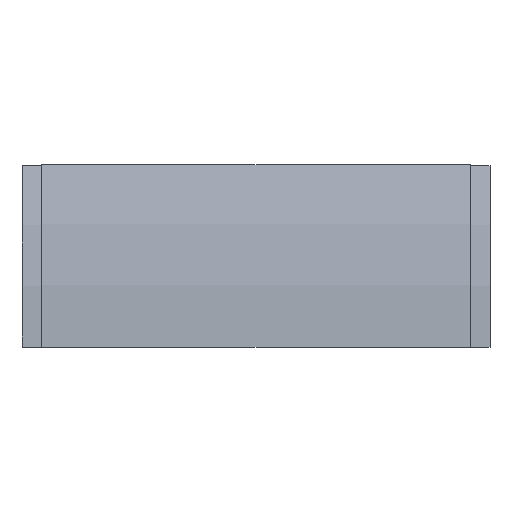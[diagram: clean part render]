
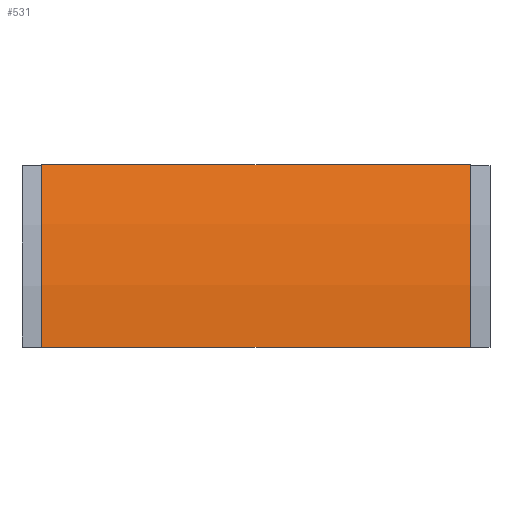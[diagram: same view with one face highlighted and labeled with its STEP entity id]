
A CAD part, front view. The second image highlights one B-rep face of the part: STEP entity #531.
In plain terms, the highlighted cylindrical face has radius 568 mm (diameter 1136 mm), a partial arc.
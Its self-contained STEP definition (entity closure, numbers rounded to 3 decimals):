
#178 = EDGE_CURVE ( 'NONE', #657, #666, #596, .T. ) ;
#181 = EDGE_CURVE ( 'NONE', #656, #664, #591, .T. ) ;
#182 = EDGE_CURVE ( 'NONE', #657, #656, #594, .T. ) ;
#183 = EDGE_CURVE ( 'NONE', #666, #664, #588, .T. ) ;
#266 = CARTESIAN_POINT ( 'NONE',  ( -228.5, -68., 0. ) ) ;
#268 = CARTESIAN_POINT ( 'NONE',  ( 228.5, -68., 0. ) ) ;
#277 = CARTESIAN_POINT ( 'NONE',  ( -228.5, -33.745, 194.267 ) ) ;
#278 = CARTESIAN_POINT ( 'NONE',  ( 228.5, -33.745, 194.267 ) ) ;
#383 = CARTESIAN_POINT ( 'NONE',  ( -228.5, 500., 0. ) ) ;
#386 = DIRECTION ( 'NONE',  ( 1., 0., 0. ) ) ;
#412 = CARTESIAN_POINT ( 'NONE',  ( 0., 500., 0. ) ) ;
#416 = DIRECTION ( 'NONE',  ( 0., 0., -1. ) ) ;
#419 = DIRECTION ( 'NONE',  ( 1., 0., 0. ) ) ;
#447 = DIRECTION ( 'NONE',  ( 1., 0., 0. ) ) ;
#455 = CARTESIAN_POINT ( 'NONE',  ( -228.5, -33.745, 194.267 ) ) ;
#478 = DIRECTION ( 'NONE',  ( 0., 0., -1. ) ) ;
#480 = DIRECTION ( 'NONE',  ( 1., 0., 0. ) ) ;
#493 = DIRECTION ( 'NONE',  ( 0., 0., -1. ) ) ;
#494 = DIRECTION ( 'NONE',  ( 1., 0., 0. ) ) ;
#495 = CARTESIAN_POINT ( 'NONE',  ( -228.5, -68., 0. ) ) ;
#516 = CARTESIAN_POINT ( 'NONE',  ( 228.5, 500., 0. ) ) ;
#531 = ADVANCED_FACE ( 'NONE', ( #897 ), #1018, .T. ) ;
#585 = VECTOR ( 'NONE', #494, 1000. ) ;
#587 = VECTOR ( 'NONE', #386, 1000. ) ;
#588 = LINE ( 'NONE', #495, #585 ) ;
#591 = CIRCLE ( 'NONE', #952, 568. ) ;
#594 = LINE ( 'NONE', #455, #587 ) ;
#596 = CIRCLE ( 'NONE', #951, 568. ) ;
#656 = VERTEX_POINT ( 'NONE', #278 ) ;
#657 = VERTEX_POINT ( 'NONE', #277 ) ;
#664 = VERTEX_POINT ( 'NONE', #268 ) ;
#666 = VERTEX_POINT ( 'NONE', #266 ) ;
#785 = ORIENTED_EDGE ( 'NONE', *, *, #178, .T. ) ;
#786 = ORIENTED_EDGE ( 'NONE', *, *, #183, .T. ) ;
#787 = ORIENTED_EDGE ( 'NONE', *, *, #181, .F. ) ;
#788 = ORIENTED_EDGE ( 'NONE', *, *, #182, .F. ) ;
#869 = EDGE_LOOP ( 'NONE', ( #787, #788, #785, #786 ) ) ;
#897 = FACE_OUTER_BOUND ( 'NONE', #869, .T. ) ;
#951 = AXIS2_PLACEMENT_3D ( 'NONE', #383, #480, #478 ) ;
#952 = AXIS2_PLACEMENT_3D ( 'NONE', #516, #447, #493 ) ;
#972 = AXIS2_PLACEMENT_3D ( 'NONE', #412, #419, #416 ) ;
#1018 = CYLINDRICAL_SURFACE ( 'NONE', #972, 568. ) ;
